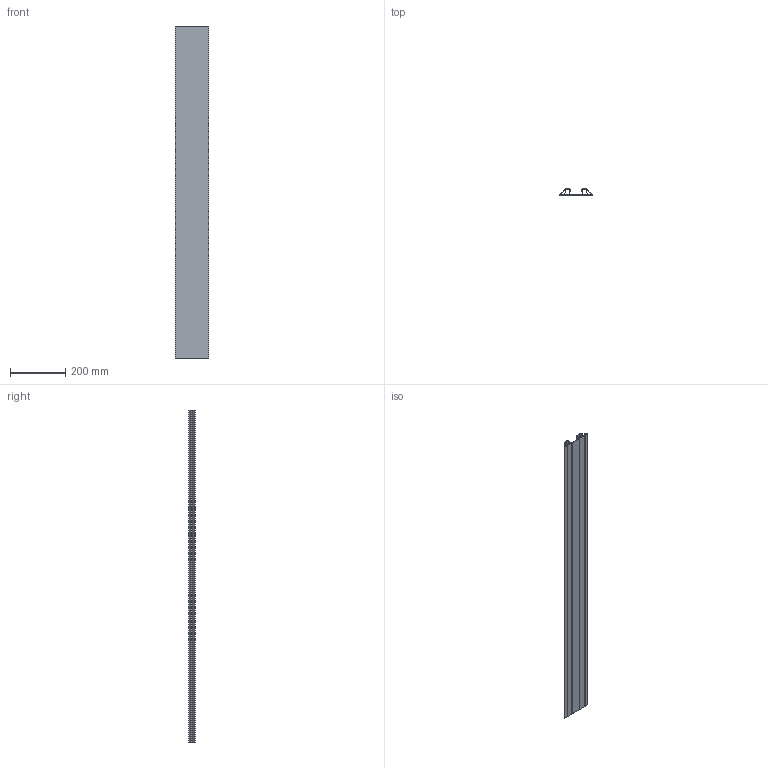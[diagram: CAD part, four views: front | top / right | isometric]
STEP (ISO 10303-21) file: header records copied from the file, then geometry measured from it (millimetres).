
FILE_DESCRIPTION(/* description */ ('STEP AP214'),/* implementation_level */ '2;1');
FILE_NAME(/* name */ '02082PO.1200',/* time_stamp */ '2026-01-21T15:35:44+01:00',/* author */ ('License CC BY-ND 4.0'),/* organization */ ('CADENAS'),/* preprocessor_version */ 'ST-DEVELOPER v20',/* originating_system */ 'PARTsolutions',/* authorisation */ ' ');
FILE_SCHEMA (('AUTOMOTIVE_DESIGN {1 0 10303 214 3 1 1}'));
Length unit declared in the file: millimetre
Products named in the file (1): 02082PO.1200
Bounding box: 120.5 x 22.7 x 1200 mm (x, y, z)
Volume: 647631.6 mm3; surface area: 631398.9 mm2
Topology: 1 solids, 1 shells, 92 faces, 270 edges, 180 vertices
Faces by surface type: plane 56, cylinder 36
Entity records: 3104 total; most frequent: CARTESIAN_POINT 543, ORIENTED_EDGE 540, DIRECTION 528, EDGE_CURVE 270, LINE 198, VECTOR 198, VERTEX_POINT 180, AXIS2_PLACEMENT_3D 165
